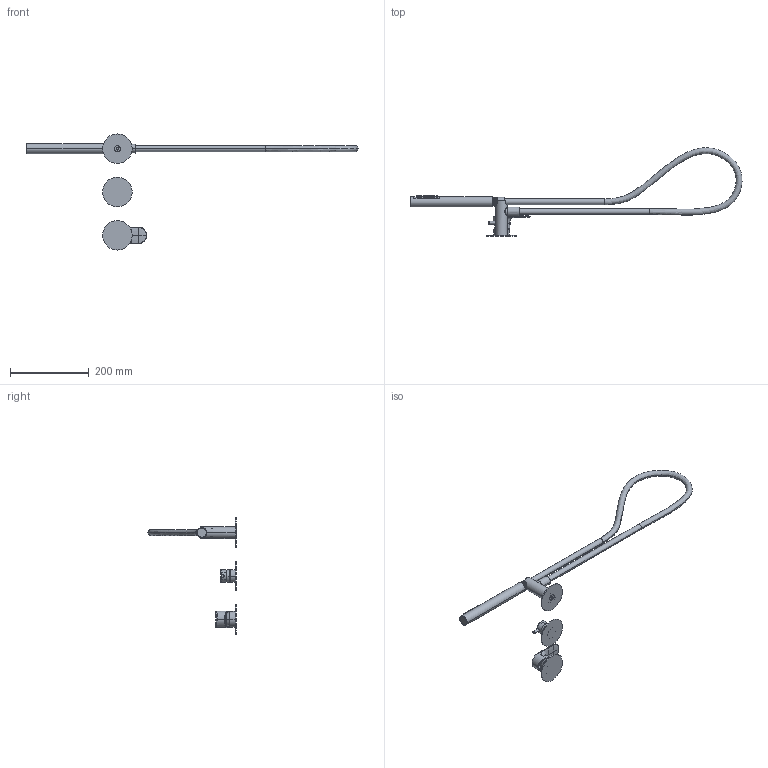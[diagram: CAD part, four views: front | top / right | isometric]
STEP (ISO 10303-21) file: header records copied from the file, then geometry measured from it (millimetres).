
FILE_DESCRIPTION((''),'2;1');
FILE_NAME('64559V2_SW0001','2024-12-17T15:16:57',('carloff'),(''),'CREO PARAMETRIC BY PTC INC, 2022014','CREO PARAMETRIC BY PTC INC, 2022014','');
FILE_SCHEMA(('CONFIG_CONTROL_DESIGN'));
Products named in the file (1): 64559V2_SW0001
Bounding box: 842.89 x 223.78 x 295 mm (x, y, z)
Volume: 449788.5 mm3; surface area: 183570.2 mm2
Topology: 4 solids, 4 shells, 770 faces, 1911 edges, 1194 vertices
Faces by surface type: cylinder 342, plane 166, bspline 122, cone 96, torus 36, sphere 6, extrusion 2
Entity records: 78465 total; most frequent: CARTESIAN_POINT 61850, ORIENTED_EDGE 3770, DIRECTION 2831, EDGE_CURVE 1885, VERTEX_POINT 1194, AXIS2_PLACEMENT_3D 1079, EDGE_LOOP 861, B_SPLINE_CURVE_WITH_KNOTS 783
